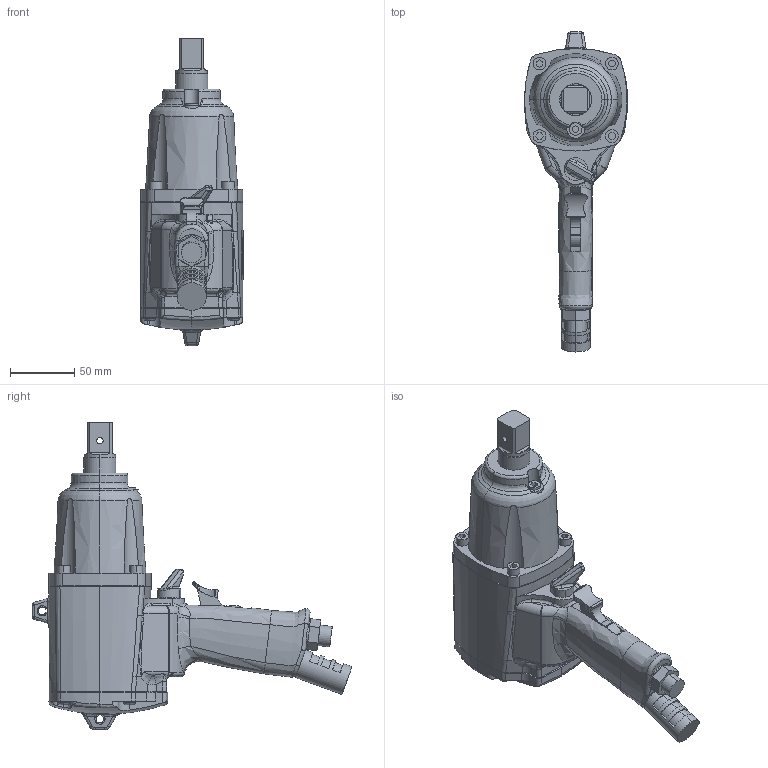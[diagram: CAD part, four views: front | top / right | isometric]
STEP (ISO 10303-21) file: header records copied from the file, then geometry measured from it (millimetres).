
FILE_DESCRIPTION (( 'STEP AP203' ), '1' );
FILE_NAME ('UX-1620.STEP', '2006-09-04T01:08:07', ( '' ), ( '' ), 'SwSTEP 2.0', 'SolidWorks 2003240', '' );
FILE_SCHEMA (( 'CONFIG_CONTROL_DESIGN' ));
Products named in the file (7): 1994396_UX-1620_蹬怮椔; 1993196_UX-1620_蹬怮椔; 1950256_UX-1620_蹬怮椔; UX-1620; 0261077_UX-1620_蹬怮椔; 1950123_UX-1620_蹬怮椔; 0232124_UX-1620_蹬怮椔
Assembly tree (6 placements, depth 2):
  UX-1620
    1994396_UX-1620_蹬怮椔
    1950123_UX-1620_蹬怮椔
    0261077_UX-1620_蹬怮椔
    1950256_UX-1620_蹬怮椔
    0232124_UX-1620_蹬怮椔
    1993196_UX-1620_蹬怮椔
Bounding box: 80.4 x 249.76 x 240.4 mm (x, y, z)
Volume: 1094054.2 mm3; surface area: 117382.6 mm2
Topology: 6 solids, 6 shells, 939 faces, 2508 edges, 1607 vertices
Faces by surface type: plane 406, bspline 260, cylinder 231, torus 21, sphere 11, cone 10
Entity records: 90433 total; most frequent: CARTESIAN_POINT 69200, ORIENTED_EDGE 4980, DIRECTION 3128, EDGE_CURVE 2490, VERTEX_POINT 1607, B_SPLINE_CURVE_WITH_KNOTS 1126, AXIS2_PLACEMENT_3D 1122, EDGE_LOOP 993
